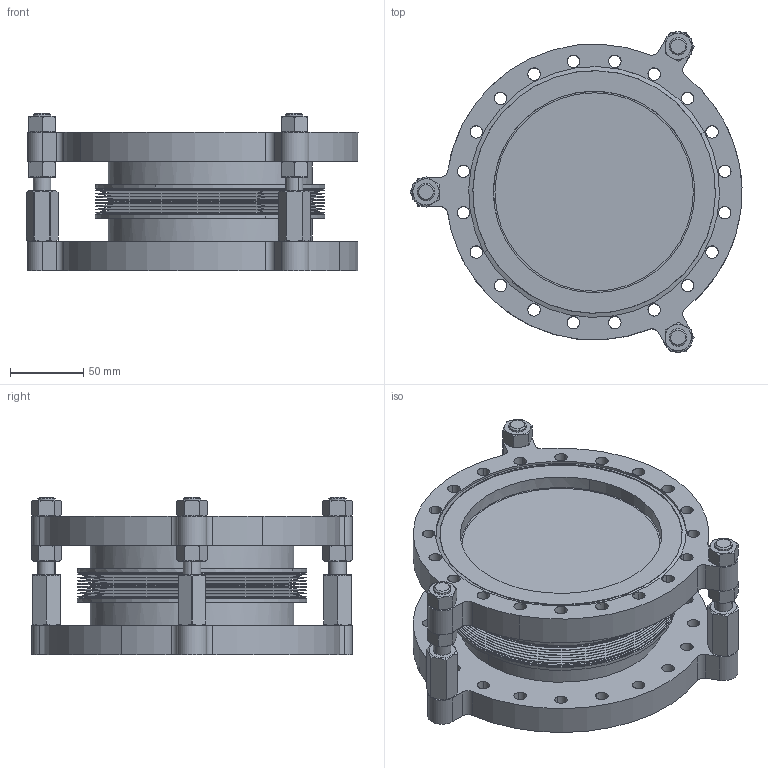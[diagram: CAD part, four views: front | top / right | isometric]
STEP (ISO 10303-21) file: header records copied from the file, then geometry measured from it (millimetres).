
FILE_DESCRIPTION(('CATIA V5 STEP Exchange'),'2;1');
FILE_NAME('W:\KONSTRUKTION\PRODUCTS\PA\PA160E\PA160E.stp','2021-07-13T07:05:45+00:00',('none'),('none'),'CATIA Version 5 Release 21 SP 6 (IN-10)','CATIA V5 STEP AP203','none');
FILE_SCHEMA(('CONFIG_CONTROL_DESIGN'));
Length unit declared in the file: millimetre
Products named in the file (1): PA160E
Bounding box: 227.1 x 219.97 x 108 mm (x, y, z)
Volume: 855899 mm3; surface area: 330554.9 mm2
Topology: 2 solids, 5 shells, 433 faces, 1125 edges, 731 vertices
Faces by surface type: cylinder 206, cone 114, plane 105, torus 8
Entity records: 17813 total; most frequent: CARTESIAN_POINT 7877, ORIENTED_EDGE 2250, DIRECTION 1550, EDGE_CURVE 1125, AXIS2_PLACEMENT_3D 732, VERTEX_POINT 731, EDGE_LOOP 558, ADVANCED_FACE 433
